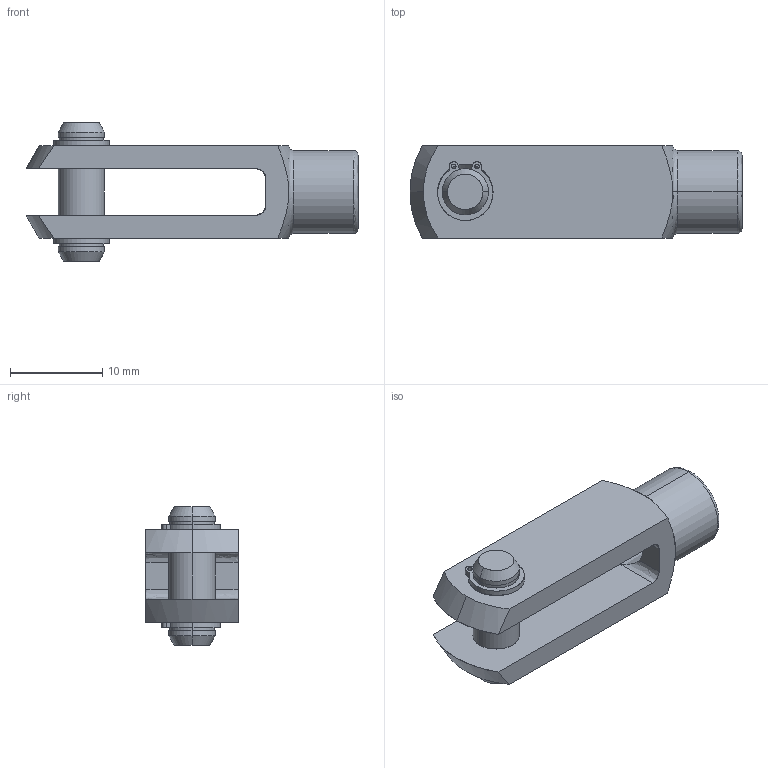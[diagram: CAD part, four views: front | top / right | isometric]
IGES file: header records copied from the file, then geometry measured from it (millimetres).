
Start section: SolidWorks IGES file using analytic representation for surfaces
Global section: file name: C:\Documents and Settings\IANO\My Documents\Wix and Auto CAD Work\CAD Models\Parametric Models\Wix Models\60000\65614_v2\65614_v2_IGES\65614.W0052.igs; native system: SolidWorks 2009; preprocessor: SolidWorks 2009; author: IANO; date: 140118.103817; units: millimetre
Bounding box: 36 x 10 x 15 mm (x, y, z)
Surface area: 2172.5 mm2 (no closed solid volume)
Topology: 0 solids, 0 shells, 94 faces, 1454 edges, 1454 vertices
Faces by surface type: revolution 63, bspline 31
